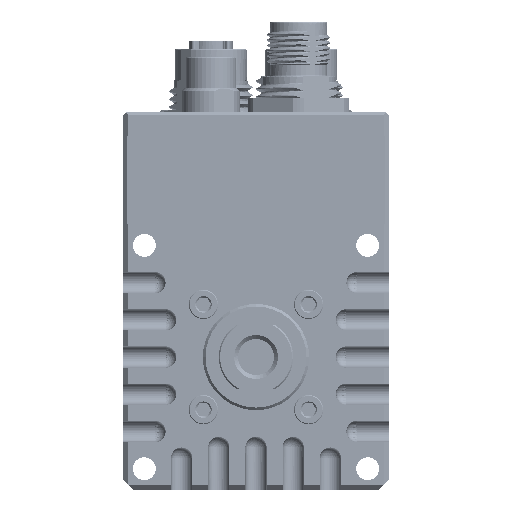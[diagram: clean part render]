
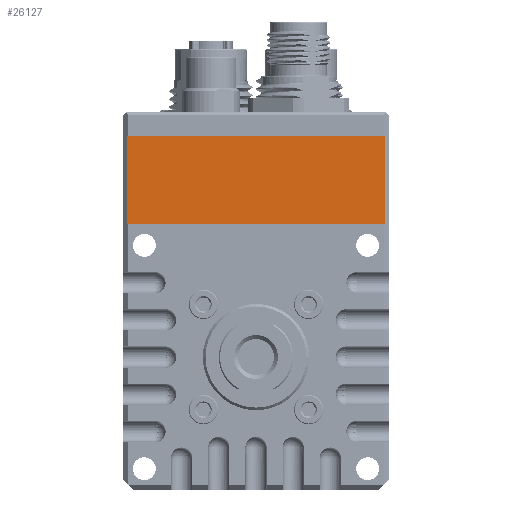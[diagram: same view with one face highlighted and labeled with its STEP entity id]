
A CAD part, left-side view. The second image highlights one B-rep face of the part: STEP entity #26127.
In plain terms, the highlighted planar face has unit normal (-1, 0, 0).
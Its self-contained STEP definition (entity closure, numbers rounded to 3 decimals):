
#1075=PLANE('',#28787);
#3901=FACE_OUTER_BOUND('',#5567,.T.);
#5567=EDGE_LOOP('',(#24159,#24160,#24161,#24162));
#8262=LINE('',#80722,#9667);
#8347=LINE('',#80902,#9752);
#8385=LINE('',#81087,#9790);
#8403=LINE('',#81158,#9808);
#9667=VECTOR('',#34795,10.);
#9752=VECTOR('',#34952,10.);
#9790=VECTOR('',#35220,10.);
#9808=VECTOR('',#35310,10.);
#12272=VERTEX_POINT('',#80717);
#12273=VERTEX_POINT('',#80720);
#12331=VERTEX_POINT('',#80897);
#12332=VERTEX_POINT('',#80900);
#16097=EDGE_CURVE('',#12273,#12272,#8262,.T.);
#16192=EDGE_CURVE('',#12332,#12331,#8347,.T.);
#16277=EDGE_CURVE('',#12332,#12272,#8385,.T.);
#16308=EDGE_CURVE('',#12273,#12331,#8403,.T.);
#24159=ORIENTED_EDGE('',*,*,#16097,.F.);
#24160=ORIENTED_EDGE('',*,*,#16308,.T.);
#24161=ORIENTED_EDGE('',*,*,#16192,.F.);
#24162=ORIENTED_EDGE('',*,*,#16277,.T.);
#26127=ADVANCED_FACE('',(#3901),#1075,.F.);
#28787=AXIS2_PLACEMENT_3D('',#81159,#35311,#35312);
#34795=DIRECTION('',(0.,0.,-1.));
#34952=DIRECTION('',(0.,0.,1.));
#35220=DIRECTION('',(0.,-1.,0.));
#35310=DIRECTION('',(0.,1.,0.));
#35311=DIRECTION('center_axis',(1.,0.,0.));
#35312=DIRECTION('ref_axis',(0.,1.,0.));
#80717=CARTESIAN_POINT('',(0.,-24.2,25.));
#80720=CARTESIAN_POINT('',(0.,-24.2,41.5));
#80722=CARTESIAN_POINT('',(0.,-24.2,14.5));
#80897=CARTESIAN_POINT('',(0.,24.2,41.5));
#80900=CARTESIAN_POINT('',(0.,24.2,25.));
#80902=CARTESIAN_POINT('',(0.,24.2,-2.125));
#81087=CARTESIAN_POINT('',(0.,-12.5,25.));
#81158=CARTESIAN_POINT('',(0.,-25.,41.5));
#81159=CARTESIAN_POINT('Origin',(0.,0.,8.25));
